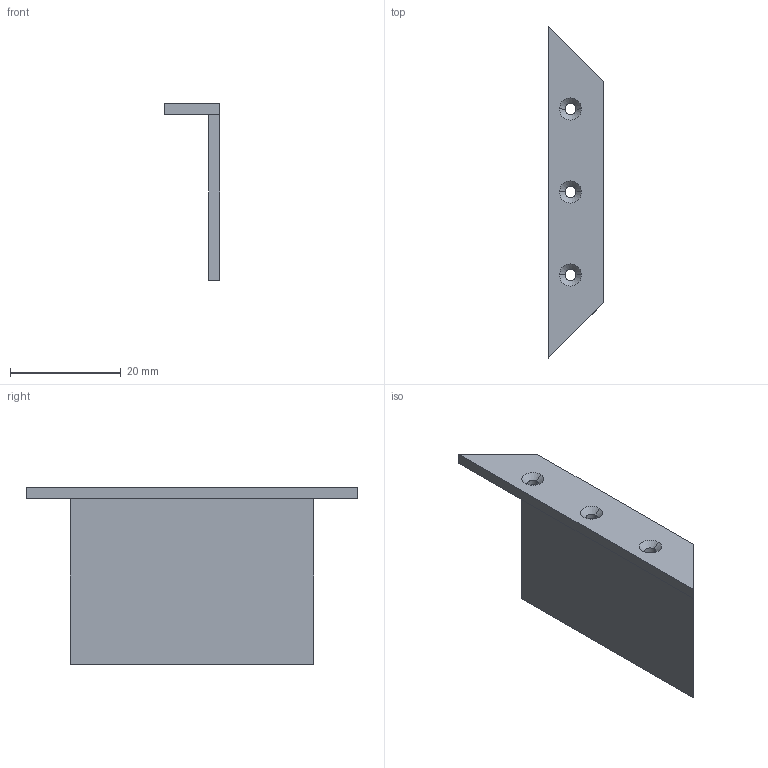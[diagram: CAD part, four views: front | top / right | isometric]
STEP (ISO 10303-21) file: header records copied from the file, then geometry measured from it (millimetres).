
FILE_DESCRIPTION (( 'STEP AP214' ), '1' );
FILE_NAME ('SC44.STEP', '2016-02-26T10:50:11', ( '' ), ( '' ), 'SwSTEP 2.0', 'SolidWorks 2012', '' );
FILE_SCHEMA (( 'AUTOMOTIVE_DESIGN' ));
Length unit declared in the file: millimetre
Products named in the file (1): SC44
Bounding box: 10 x 60 x 32 mm (x, y, z)
Volume: 3488.6 mm3; surface area: 4126 mm2
Topology: 2 solids, 2 shells, 24 faces, 54 edges, 34 vertices
Faces by surface type: plane 12, cone 6, cylinder 6
Entity records: 723 total; most frequent: DIRECTION 122, CARTESIAN_POINT 113, ORIENTED_EDGE 108, EDGE_CURVE 54, AXIS2_PLACEMENT_3D 43, LINE 36, VECTOR 36, VERTEX_POINT 34
